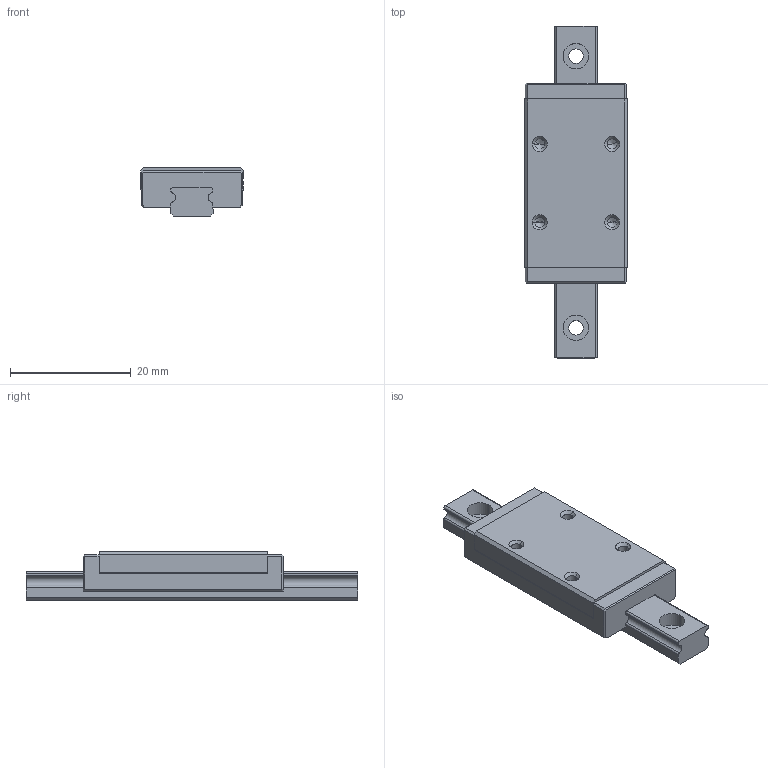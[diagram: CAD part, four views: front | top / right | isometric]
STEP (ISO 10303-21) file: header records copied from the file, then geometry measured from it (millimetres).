
FILE_DESCRIPTION( ( '' ), '1' );
FILE_NAME( 'V:\MSC\MODEL File\MAC catalog drawing\STEP\MSC7LM.stp', ' ', ( '' ), ( '' ), 'ACIS Interop R16', 'Kubotek KeyCreator V6.3.0 (0248)', ' ' );
FILE_SCHEMA( ( 'CONFIG_CONTROL_DESIGN' ) );
Length unit declared in the file: millimetre
Products named in the file (2): 1; 2
Bounding box: 17 x 55 x 8 mm (x, y, z)
Volume: 4377.8 mm3; surface area: 3569.7 mm2
Topology: 2 solids, 2 shells, 118 faces, 298 edges, 184 vertices
Faces by surface type: plane 59, cylinder 43, cone 16
Entity records: 3575 total; most frequent: DIRECTION 625, CARTESIAN_POINT 603, ORIENTED_EDGE 580, EDGE_CURVE 290, AXIS2_PLACEMENT_3D 218, LINE 189, VECTOR 189, VERTEX_POINT 184
